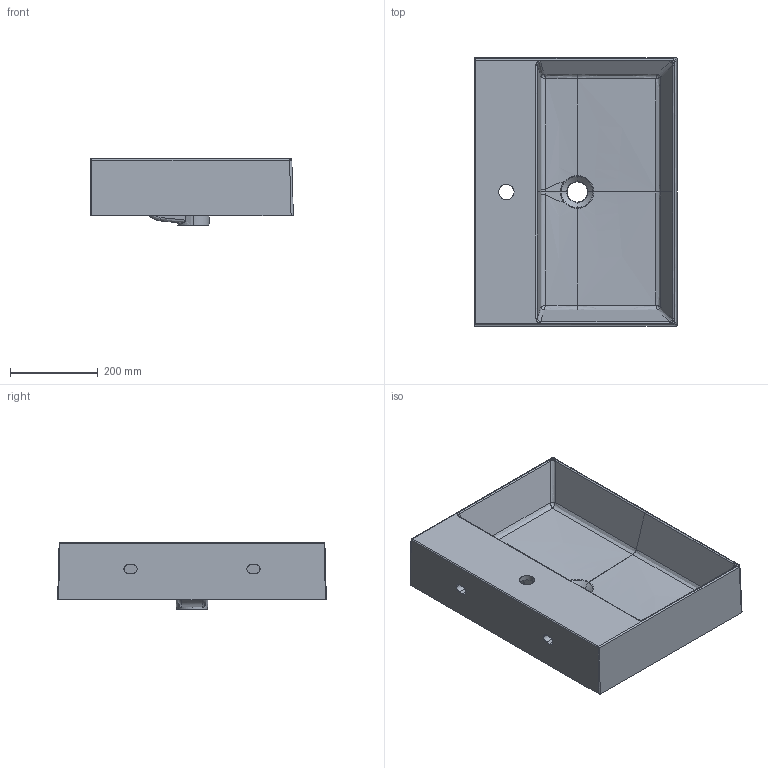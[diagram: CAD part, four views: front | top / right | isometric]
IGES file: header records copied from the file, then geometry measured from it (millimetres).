
Start section: START RECORD GO HERE.
Global section: file name: 8974_MEG Pro 61 x 46.igs; native system: DASSAULT SYSTEMES CATIA V5 R19 - www.3ds.com; preprocessor: CATIA Version 5 Release 19 SP 5 ; author: gioge; organization: LAPTOP-G94B6G74; date: 20200630.151822; units: millimetre
Bounding box: 461.22 x 611.81 x 151.5 mm (x, y, z)
Surface area: 1183804.6 mm2 (no closed solid volume)
Topology: 0 solids, 0 shells, 391 faces, 1930 edges, 1912 vertices
Faces by surface type: bspline 337, plane 52, revolution 2
